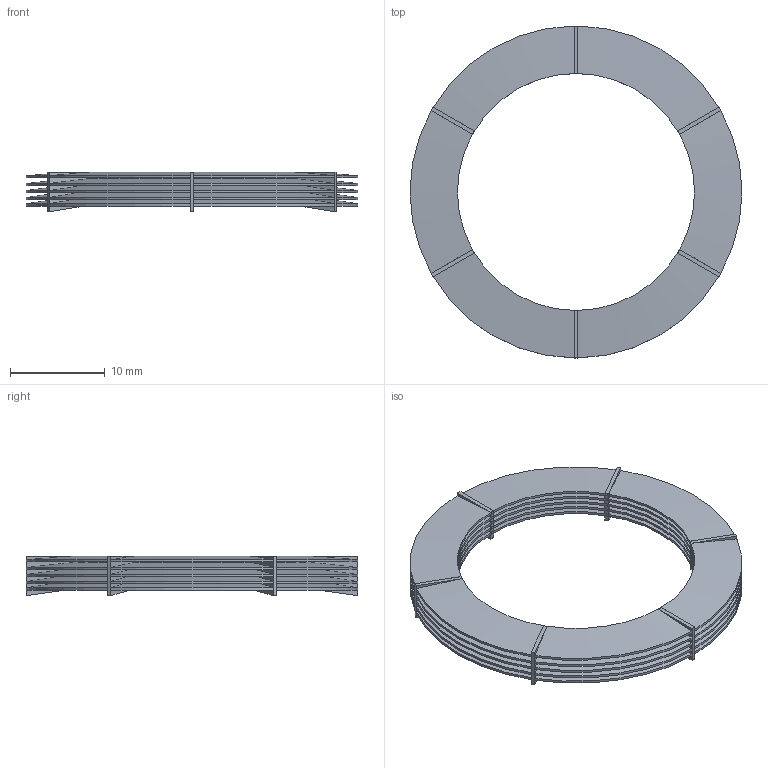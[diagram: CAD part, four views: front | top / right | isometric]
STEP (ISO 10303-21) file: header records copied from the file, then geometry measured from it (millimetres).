
FILE_DESCRIPTION(('Open CASCADE Model'),'2;1');
FILE_NAME('Open CASCADE Shape Model','2026-11-10T21:02:45',('Author'),( 'Open CASCADE'),'Open CASCADE STEP processor 7.9','Open CASCADE 7.9' ,'Unknown');
FILE_SCHEMA(('AUTOMOTIVE_DESIGN { 1 0 10303 214 1 1 1 1 }'));
Length unit declared in the file: millimetre
Products named in the file (1): Open CASCADE STEP translator 7.9 7
Bounding box: 35 x 35 x 4.15 mm (x, y, z)
Volume: 619.7 mm3; surface area: 5049.7 mm2
Topology: 1 solids, 1 shells, 179 faces, 609 edges, 382 vertices
Faces by surface type: plane 78, cone 66, cylinder 35
Full cylindrical faces by diameter (mm): 25 x5
Entity records: 15148 total; most frequent: CARTESIAN_POINT 4417, DIRECTION 1885, ORIENTED_EDGE 1218, PCURVE 1218, DEFINITIONAL_REPRESENTATION 1218, LINE 701, VECTOR 701, EDGE_CURVE 609
